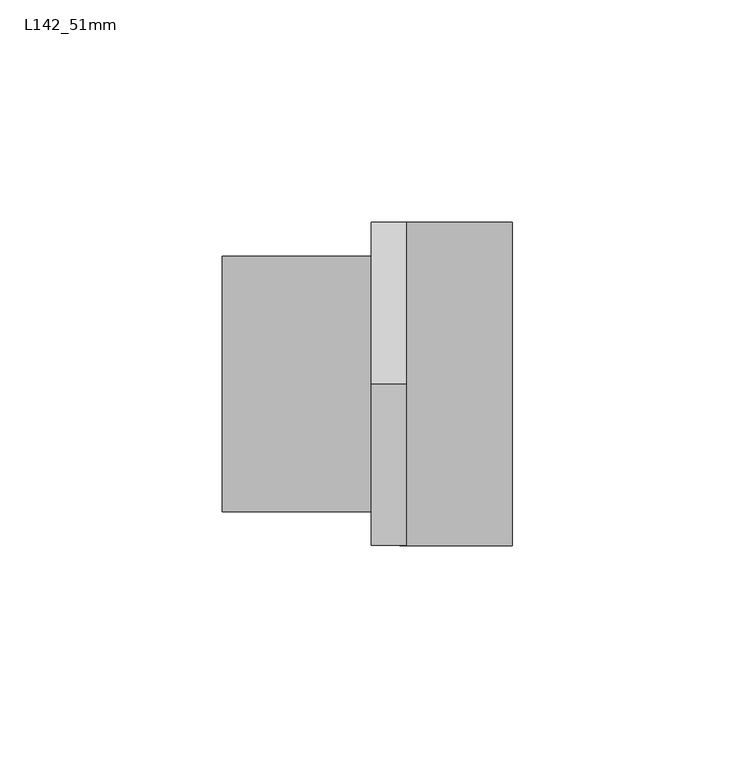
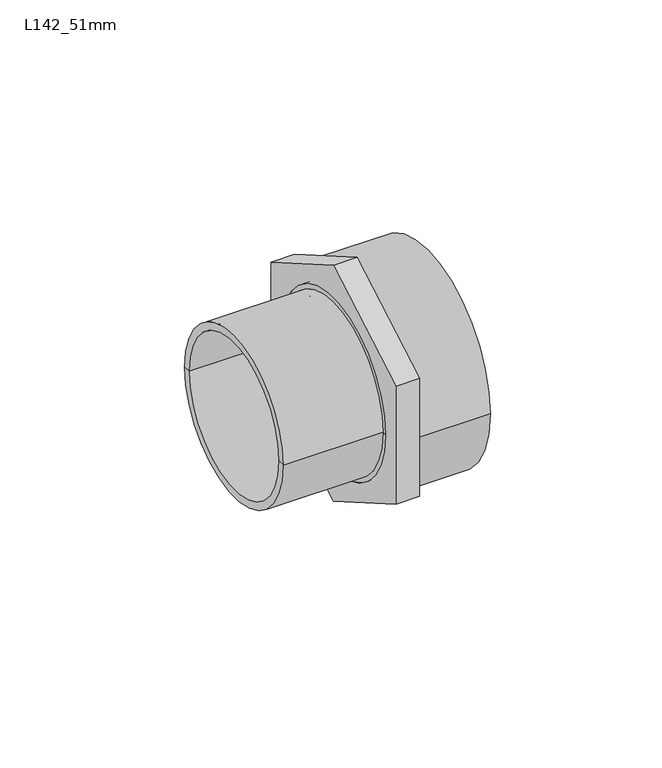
"""IFC4 building model written with IfcOpenShell, lengths in millimetres: pipe fitting geometry, Durapipe_PipeFitting_VulcatheneEnfusion_MItoPipeCoupler_L14 : L142_51mm."""

from ifc_helpers import new_model, si_unit, point, frame, origin, origin_2d, place, context, project, spatial, polyline, circle_curve, trimmed, segment, composite_curve, outline, extrude, source, transform, mapped, element, save
from ifc_brep_helpers import plane_surface, cylinder_surface, revolved_surface, advanced_brep


def l142_51mm_4ce51af9(model_context):
    return source(origin(), model_context, "Body", "SolidModel", [
        extrude(outline(polyline([(-36.3, -20.9589501), (-36.3, 20.9903269), (0.0, 41.9145145), (36.3, 20.9903269), (36.3, -20.9589501), (0.0, -41.8831377), (-36.3, -20.9589501)]), holes=[composite_curve([segment(trimmed(circle_curve(origin_2d(), 30.35), [point((-30.35, 0.0))], [point((30.35, 0.0))], True, "CARTESIAN"), True, "CONTINUOUS"), segment(trimmed(circle_curve(origin_2d(), 30.35), [point((30.35, 0.0))], [point((-30.35, 0.0))], True, "CARTESIAN"), True, "CONTINUOUS")], self_intersect=False)]), frame((0.85, 0.0, 0.0), z_axis=(1.0, 0.0, 0.0), x_axis=(0.0, 1.0, 0.0)), (0.0, 0.0, 1.0), 7.9375),
        advanced_brep(
        [(-32.55, -28.75, 0.0), (-32.55, 28.75, 0.0), (0.85, 28.75, 0.0), (0.85, -28.75, 0.0), (-32.55, -26.15, 0.0), (-32.55, 26.15, 0.0), (1.65, -26.15, 0.0), (1.65, 26.15, 0.0), (0.85, 30.35, 0.0), (0.85, -30.35, 0.0), (1.65, -30.35, 0.0), (1.65, 30.35, 0.0)],
        [
            (0, 1, circle_curve(frame((-32.55, 0.0, 0.0), z_axis=(1.0, 0.0, 0.0), x_axis=(0.0, 1.0, 0.0)), 28.75)),
            (1, 2),
            (2, 3, circle_curve(frame((0.85, 0.0, 0.0), z_axis=(-1.0, 0.0, 0.0), x_axis=(0.0, 1.0, 0.0)), 28.75)),
            (3, 0),
            (1, 0, circle_curve(frame((-32.55, 0.0, 0.0), z_axis=(1.0, 0.0, 0.0), x_axis=(0.0, 1.0, 0.0)), 28.75)),
            (3, 2, circle_curve(frame((0.85, 0.0, 0.0), z_axis=(-1.0, 0.0, 0.0), x_axis=(0.0, 1.0, 0.0)), 28.75)),
            (4, 5, circle_curve(frame((-32.55, 0.0, 0.0), z_axis=(1.0, 0.0, 0.0), x_axis=(0.0, 1.0, 0.0)), 26.15)),
            (5, 1),
            (0, 4),
            (5, 4, circle_curve(frame((-32.55, 0.0, 0.0), z_axis=(1.0, 0.0, 0.0), x_axis=(0.0, 1.0, 0.0)), 26.15)),
            (6, 7, circle_curve(frame((1.65, 0.0, 0.0), z_axis=(1.0, 0.0, 0.0), x_axis=(0.0, 1.0, 0.0)), 26.15)),
            (7, 5),
            (4, 6),
            (7, 6, circle_curve(frame((1.65, 0.0, 0.0), z_axis=(1.0, 0.0, 0.0), x_axis=(0.0, 1.0, 0.0)), 26.15)),
            (2, 8),
            (8, 9, circle_curve(frame((0.85, 0.0, 0.0), z_axis=(-1.0, 0.0, 0.0), x_axis=(0.0, 1.0, 0.0)), 30.35)),
            (9, 3),
            (9, 8, circle_curve(frame((0.85, 0.0, 0.0), z_axis=(-1.0, 0.0, 0.0), x_axis=(0.0, 1.0, 0.0)), 30.35)),
            (10, 11, circle_curve(frame((1.65, 0.0, 0.0), z_axis=(1.0, 0.0, 0.0), x_axis=(0.0, 1.0, 0.0)), 30.35)),
            (11, 7),
            (6, 10),
            (11, 10, circle_curve(frame((1.65, 0.0, 0.0), z_axis=(1.0, 0.0, 0.0), x_axis=(0.0, 1.0, 0.0)), 30.35)),
            (8, 11),
            (10, 9),
        ],
        [
            cylinder_surface(frame((1577.6018184, 0.0, 0.0), z_axis=(-1.0, 0.0, 0.0), x_axis=(0.0, 1.0, 0.0)), 28.75),
            plane_surface(frame((-32.55, 0.0, 0.0), z_axis=(-1.0, 0.0, 0.0), x_axis=(0.0, 1.0, 0.0))),
            revolved_surface(polyline([(-32.549999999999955, 26.15, 0.0), (1.650000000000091, 26.15, 0.0)]), (1577.6018184, 0.0, 0.0), (-1.0, 0.0, 0.0)),
            plane_surface(frame((0.85, 0.0, 0.0), z_axis=(-1.0, 0.0, 0.0), x_axis=(0.0, 1.0, 0.0))),
            plane_surface(frame((1.65, 0.0, 0.0), z_axis=(1.0, 0.0, 0.0), x_axis=(0.0, 1.0, 0.0))),
            cylinder_surface(frame((1577.6018184, 0.0, 0.0), z_axis=(-1.0, 0.0, 0.0), x_axis=(0.0, 1.0, 0.0)), 30.35),
        ],
        [
            (0, [[1, 2, 3, 4]]),
            (0, [[5, -4, 6, -2]]),
            (1, [[7, 8, -1, 9]]),
            (1, [[10, -9, -5, -8]]),
            (2, [[11, 12, -7, 13]]),
            (2, [[14, -13, -10, -12]]),
            (3, [[-3, 15, 16, 17]]),
            (3, [[-6, -17, 18, -15]]),
            (4, [[19, 20, -11, 21]]),
            (4, [[22, -21, -14, -20]]),
            (5, [[-16, 23, -19, 24]]),
            (5, [[-18, -24, -22, -23]]),
        ],
    ),
        advanced_brep(
        [(7.25, -30.35, 0.0), (7.25, 30.35, 0.0), (7.25, 36.3, 0.0), (7.25, -36.3, 0.0), (32.55, -30.35, 0.0), (32.55, 30.35, 0.0), (32.55, -36.3, 0.0), (32.55, 36.3, 0.0)],
        [
            (0, 1, circle_curve(frame((7.25, 0.0, 0.0), z_axis=(1.0, 0.0, 0.0), x_axis=(0.0, 1.0, 0.0)), 30.35)),
            (1, 2),
            (2, 3, circle_curve(frame((7.25, 0.0, 0.0), z_axis=(-1.0, 0.0, 0.0), x_axis=(0.0, 1.0, 0.0)), 36.3)),
            (3, 0),
            (1, 0, circle_curve(frame((7.25, 0.0, 0.0), z_axis=(1.0, 0.0, 0.0), x_axis=(0.0, 1.0, 0.0)), 30.35)),
            (3, 2, circle_curve(frame((7.25, 0.0, 0.0), z_axis=(-1.0, 0.0, 0.0), x_axis=(0.0, 1.0, 0.0)), 36.3)),
            (4, 5, circle_curve(frame((32.55, 0.0, 0.0), z_axis=(1.0, 0.0, 0.0), x_axis=(0.0, 1.0, 0.0)), 30.35)),
            (5, 1),
            (0, 4),
            (5, 4, circle_curve(frame((32.55, 0.0, 0.0), z_axis=(1.0, 0.0, 0.0), x_axis=(0.0, 1.0, 0.0)), 30.35)),
            (6, 7, circle_curve(frame((32.55, 0.0, 0.0), z_axis=(1.0, 0.0, 0.0), x_axis=(0.0, 1.0, 0.0)), 36.3)),
            (7, 5),
            (4, 6),
            (7, 6, circle_curve(frame((32.55, 0.0, 0.0), z_axis=(1.0, 0.0, 0.0), x_axis=(0.0, 1.0, 0.0)), 36.3)),
            (2, 7),
            (6, 3),
        ],
        [
            plane_surface(frame((7.25, 0.0, 0.0), z_axis=(-1.0, 0.0, 0.0), x_axis=(0.0, 1.0, 0.0))),
            revolved_surface(polyline([(7.25, 30.35, 0.0), (32.549999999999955, 30.35, 0.0)]), (1577.6018184, 0.0, 0.0), (-1.0, 0.0, 0.0)),
            plane_surface(frame((32.55, 0.0, 0.0), z_axis=(1.0, 0.0, 0.0), x_axis=(0.0, 1.0, 0.0))),
            cylinder_surface(frame((1577.6018184, 0.0, 0.0), z_axis=(-1.0, 0.0, 0.0), x_axis=(0.0, 1.0, 0.0)), 36.3),
        ],
        [
            (0, [[1, 2, 3, 4]]),
            (0, [[5, -4, 6, -2]]),
            (1, [[7, 8, -1, 9]]),
            (1, [[10, -9, -5, -8]]),
            (2, [[11, 12, -7, 13]]),
            (2, [[14, -13, -10, -12]]),
            (3, [[-3, 15, -11, 16]]),
            (3, [[-6, -16, -14, -15]]),
        ],
    ),
    ])


if __name__ == "__main__":
    model = new_model("IFC4")
    model_context = context("Model", 3, world=origin())
    ifc_project = project(units=[si_unit("LENGTHUNIT", "METRE", prefix="MILLI")], contexts=[model_context])
    site = spatial("IfcSite", under=ifc_project)
    building = spatial("IfcBuilding", under=site)
    placement = place(None, origin())
    l142_51mm_shape = l142_51mm_4ce51af9(model_context)
    element("IfcPipeFitting", 1, ObjectType="Durapipe_PipeFitting_VulcatheneEnfusion_MItoPipeCoupler_L14 : L142_51mm", at=placement, inside=building, context=model_context, shape_type="MappedRepresentation", body=[
        mapped(l142_51mm_shape, transform((0.0, 0.0, 0.0), x_axis=(1.0, 0.0, 0.0), y_axis=(0.0, 1.0, 0.0), z_axis=(0.0, 0.0, 1.0))),
    ])
    save(model, "model.ifc")
